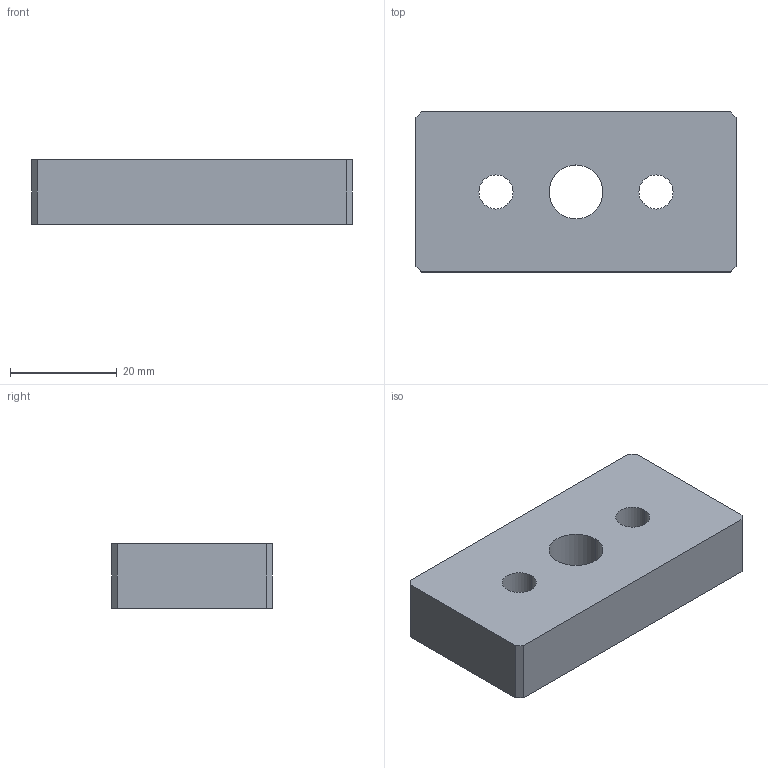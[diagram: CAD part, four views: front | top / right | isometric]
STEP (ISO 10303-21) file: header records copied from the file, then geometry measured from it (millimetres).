
FILE_DESCRIPTION (( 'STEP AP203' ), '1' );
FILE_NAME ('DFB3060.STEP', '2018-07-17T06:32:48', ( '' ), ( '' ), 'SwSTEP 2.0', 'SolidWorks 2012', '' );
FILE_SCHEMA (( 'CONFIG_CONTROL_DESIGN' ));
Length unit declared in the file: millimetre
Products named in the file (1): DFB3060
Bounding box: 60 x 30 x 12 mm (x, y, z)
Volume: 19036.7 mm3; surface area: 6487.3 mm2
Topology: 1 solids, 1 shells, 22 faces, 54 edges, 36 vertices
Faces by surface type: plane 12, cylinder 10
Entity records: 747 total; most frequent: DIRECTION 120, CARTESIAN_POINT 113, ORIENTED_EDGE 108, EDGE_CURVE 54, AXIS2_PLACEMENT_3D 43, VERTEX_POINT 36, VECTOR 34, LINE 34
